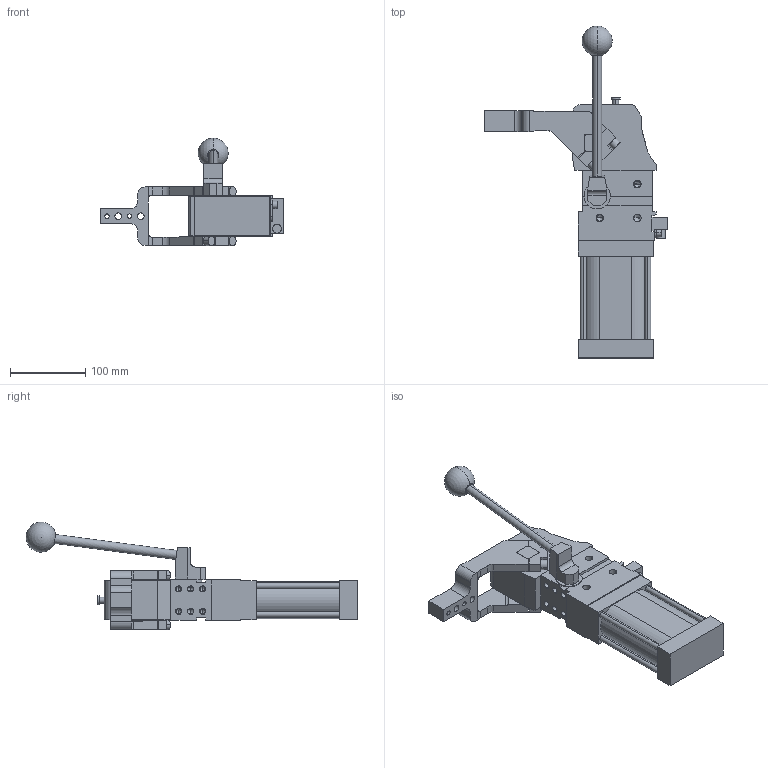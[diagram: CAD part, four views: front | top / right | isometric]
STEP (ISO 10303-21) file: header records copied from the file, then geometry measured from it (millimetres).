
FILE_DESCRIPTION (( 'STEP AP214' ), '1' );
FILE_NAME ('cplm63lav1ci1g_135.STEP', '2023-01-26T14:36:53', ( '' ), ( '' ), 'SwSTEP 2.0', 'SolidWorks 2022', '' );
FILE_SCHEMA (( 'AUTOMOTIVE_DESIGN' ));
Length unit declared in the file: millimetre
Products named in the file (5): comando_manuale_cplm_63; cplm63lav1ci1g_135; blocchetto_VEP_0; meccanica_cplm_63; leva_cx_offset_15_cpl63
Assembly tree (4 placements, depth 2):
  cplm63lav1ci1g_135
    meccanica_cplm_63
    blocchetto_VEP_0
    leva_cx_offset_15_cpl63
    comando_manuale_cplm_63
Bounding box: 244.5 x 442.23 x 143.5 mm (x, y, z)
Volume: 1858154.9 mm3; surface area: 205684.9 mm2
Topology: 4 solids, 4 shells, 430 faces, 1128 edges, 699 vertices
Faces by surface type: plane 217, cylinder 161, cone 50, sphere 2
Entity records: 14525 total; most frequent: DIRECTION 2307, CARTESIAN_POINT 2294, ORIENTED_EDGE 2154, EDGE_CURVE 1077, AXIS2_PLACEMENT_3D 799, LINE 709, VECTOR 709, VERTEX_POINT 696
